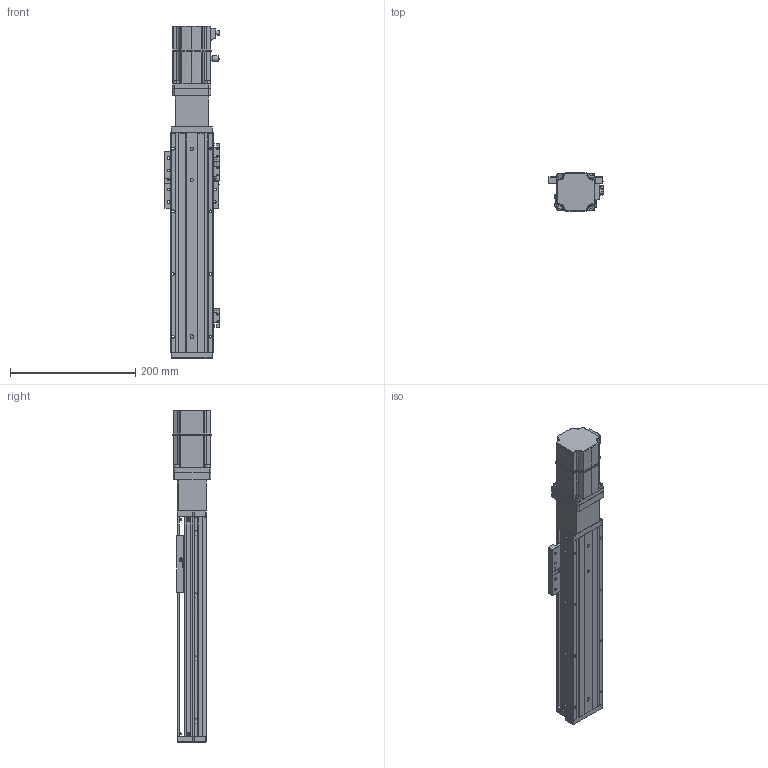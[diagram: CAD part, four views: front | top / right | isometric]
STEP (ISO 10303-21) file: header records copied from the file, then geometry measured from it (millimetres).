
FILE_DESCRIPTION (( 'STEP AP203' ), '1' );
FILE_NAME ('KTHAL60-200-BC-M20-C4L.step', '2022-12-16T01:57:38', ( '微软用户' ), ( '微软中国' ), 'SwSTEP 2.0', 'SolidWorks 2020', '' );
FILE_SCHEMA (( 'CONFIG_CONTROL_DESIGN' ));
Length unit declared in the file: millimetre
Products named in the file (18): CTHA60-027; KTHA60-001_350; CTHA60-017; CTHA60-013; KTHLA60-002; CTHA60-021; CTHA60-006-3_M20B; KTHA60-004; GBT 70.1-M4×16; _X2_4E0983F1_X0_200W_1; KTHA60-005; GBT77-2000M3-3; KTHAL60-200-BC-M20-C4L; GB¨uT 70.2-M3¡Á5_M3¡Á6; GBT 70.1-M3℅6; GBT 70.3-M3℅6; CTHA60-016; EE_SX911P_R
Assembly tree (48 placements, depth 2):
  KTHAL60-200-BC-M20-C4L
    KTHA60-001_350
    KTHLA60-002
    KTHA60-004
    KTHA60-005
    GB¨uT 70.2-M3¡Á5_M3¡Á6  x5
    GBT 70.3-M3℅6  x6
    EE_SX911P_R  x3
    CTHA60-017  x3
    CTHA60-021  x2
    GBT 70.1-M4×16  x8
    GBT77-2000M3-3  x6
    GBT 70.1-M3℅6  x6
    CTHA60-016
    CTHA60-027
    CTHA60-013
    CTHA60-006-3_M20B
    _X2_4E0983F1_X0_200W_1
Bounding box: 87.82 x 62.42 x 529.7 mm (x, y, z)
Volume: 1178344.4 mm3; surface area: 270833 mm2
Topology: 51 solids, 51 shells, 2246 faces, 5299 edges, 3241 vertices
Faces by surface type: plane 1213, cylinder 585, cone 287, torus 78, bspline 69, sphere 14
Entity records: 39835 total; most frequent: CARTESIAN_POINT 7718, DIRECTION 6238, ORIENTED_EDGE 5994, EDGE_CURVE 2997, AXIS2_PLACEMENT_3D 2153, VECTOR 1932, LINE 1932, VERTEX_POINT 1863
